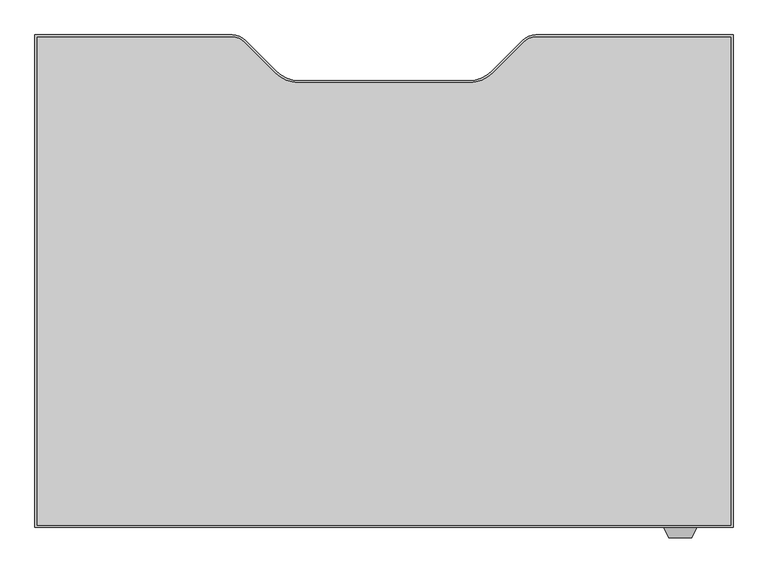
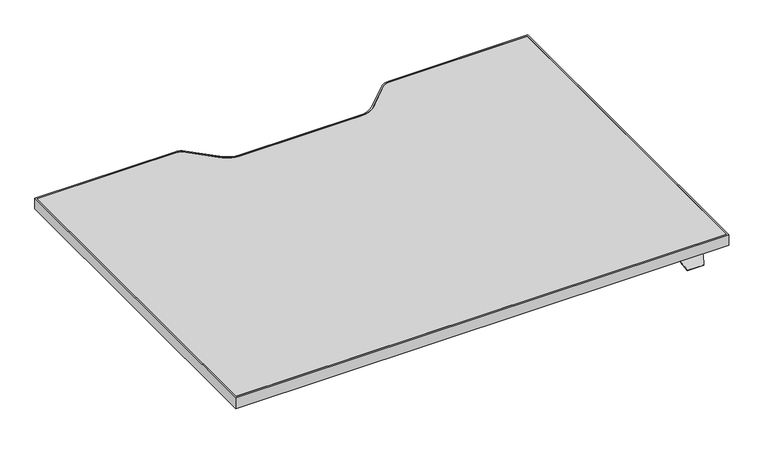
"""IFC4 building model written with IfcOpenShell, lengths in millimetres: furniture geometry, Steelcase Turnstone - Bivi - Height Adjustable Desk - C Base : 30D x 42.5W."""

import ifcopenshell
import ifcopenshell.guid

model = None  # the IFC model being written
_history = None  # IfcOwnerHistory: only IFC2X3 demands one
_inside = {}  # id of a spatial element -> (the spatial element, [elements in it])
_under = {}  # id of a project, library or spatial element -> (it, [spatial elements below it])
_declared = {}  # id of a project -> (the project, [libraries it declares])
_typed = {}  # id of a type object -> (the type object, [elements of that type])
_made_of = {}  # id of a material, layer set ... -> (it, [elements and type objects made of it])


def new_model(schema):
    """Start an empty IFC model of exactly this schema.

    Asked for "IFC4X3", IfcOpenShell would pick the latest addendum, in which some entities
    have other attributes; the version numbers below select the first issue.
    IFC2X3 requires an IfcOwnerHistory on every rooted entity: one is made here for all.
    """
    global model, _history
    if schema == "IFC4X3":
        model = ifcopenshell.file(schema_version=(4, 3, 0, 0))
    else:
        model = ifcopenshell.file(schema=schema)
    _inside.clear()
    _under.clear()
    _declared.clear()
    _typed.clear()
    _made_of.clear()
    _history = None
    if model.schema == "IFC2X3":
        org = make("IfcOrganization", Name="unknown")
        user = make(
            "IfcPersonAndOrganization",
            ThePerson=make("IfcPerson", FamilyName="unknown"),
            TheOrganization=org,
        )
        app = make(
            "IfcApplication",
            ApplicationDeveloper=org,
            Version="unknown",
            ApplicationFullName="unknown",
            ApplicationIdentifier="unknown",
        )
        _history = make(
            "IfcOwnerHistory",
            OwningUser=user,
            OwningApplication=app,
            ChangeAction="ADDED",
            CreationDate=0,
        )
    return model


def make(cls, **values):
    """One entity of the class cls with the attributes given. An attribute that is None is left unset."""
    return model.create_entity(
        cls, **{name: value for name, value in values.items() if value is not None}
    )


def rooted(cls, **values):
    """An entity with a GlobalId (a new one), such as an element, a storey or a relation."""
    return make(cls, GlobalId=ifcopenshell.guid.new(), OwnerHistory=_history, **values)


def si_unit(unit_type, name, prefix=None):
    """IfcSIUnit, for example si_unit("LENGTHUNIT", "METRE", prefix="MILLI")."""
    return make("IfcSIUnit", UnitType=unit_type, Prefix=prefix, Name=name)


def assignment(units):
    """IfcUnitAssignment: the units of a project."""
    return None if units is None else make("IfcUnitAssignment", Units=units)


def point(xyz):
    """IfcCartesianPoint."""
    return None if xyz is None else make("IfcCartesianPoint", Coordinates=xyz)


def direction(xyz):
    """IfcDirection."""
    return None if xyz is None else make("IfcDirection", DirectionRatios=xyz)


def frame(location, z_axis=None, x_axis=None):
    """IfcAxis2Placement3D, a coordinate frame: its origin and axes. An axis left out is left unset."""
    return make(
        "IfcAxis2Placement3D",
        Location=point(location),
        Axis=direction(z_axis),
        RefDirection=direction(x_axis),
    )


def frame_2d(location, x_axis=None):
    """IfcAxis2Placement2D, a coordinate frame in the plane: its origin and x axis."""
    return make(
        "IfcAxis2Placement2D", Location=point(location), RefDirection=direction(x_axis)
    )


def origin():
    """The frame at (0, 0, 0) with its axes left unset."""
    return frame((0.0, 0.0, 0.0))


def place(relative_to, where):
    """IfcLocalPlacement: puts the frame where relative to a parent placement (None: the world)."""
    return make(
        "IfcLocalPlacement", PlacementRelTo=relative_to, RelativePlacement=where
    )


def context(
    kind, dimensions, precision=None, world=None, true_north=None, identifier=None
):
    """IfcGeometricRepresentationContext, for example the 3D "Model" context."""
    return make(
        "IfcGeometricRepresentationContext",
        ContextIdentifier=identifier,
        ContextType=kind,
        CoordinateSpaceDimension=dimensions,
        Precision=precision,
        WorldCoordinateSystem=world,
        TrueNorth=true_north,
    )


def project(units=None, contexts=None):
    """IfcProject with its units and contexts."""
    return rooted(
        "IfcProject",
        Name="project",
        RepresentationContexts=contexts,
        UnitsInContext=assignment(units),
    )


def spatial(cls, under=None, at=None, **own):
    """A site, building, storey or space (cls), placed at a placement, below another one or the project."""
    s = rooted(cls, ObjectPlacement=at, **own)
    if under is not None:
        _under.setdefault(under.id(), (under, []))[1].append(s)
    return s


def polyline(points):
    """IfcPolyline through the points."""
    return make("IfcPolyline", Points=[point(p) for p in points])


def circle_curve(where, radius):
    """IfcCircle in the frame where."""
    return make("IfcCircle", Position=where, Radius=radius)


def trimmed(basis, trim1, trim2, sense, master):
    """IfcTrimmedCurve: the piece of a basis curve between two trims."""
    return make(
        "IfcTrimmedCurve",
        BasisCurve=basis,
        Trim1=trim1,
        Trim2=trim2,
        SenseAgreement=sense,
        MasterRepresentation=master,
    )


def segment(curve, same_sense, transition):
    """IfcCompositeCurveSegment."""
    return make(
        "IfcCompositeCurveSegment",
        Transition=transition,
        SameSense=same_sense,
        ParentCurve=curve,
    )


def composite_curve(segments, self_intersect=None):
    """IfcCompositeCurve: segments joined end to end."""
    return make("IfcCompositeCurve", Segments=segments, SelfIntersect=self_intersect)


def outline(outer, holes=None, kind="AREA"):
    """IfcArbitraryClosedProfileDef: a profile drawn as a closed curve; with holes, ...WithVoids."""
    if holes is None:
        return make("IfcArbitraryClosedProfileDef", ProfileType=kind, OuterCurve=outer)
    return make(
        "IfcArbitraryProfileDefWithVoids",
        ProfileType=kind,
        OuterCurve=outer,
        InnerCurves=holes,
    )


def extrude(swept, where, along, depth):
    """IfcExtrudedAreaSolid: the profile swept, set in the frame where, extruded along a direction by depth."""
    return make(
        "IfcExtrudedAreaSolid",
        SweptArea=swept,
        Position=where,
        ExtrudedDirection=direction(along),
        Depth=depth,
    )


def faces_of(points, faces, orient=None, outer=None):
    """IfcFace entities. A face is a list of loops; a loop is a list of indices into points, from 0.

    orient and outer hold one flag for each loop. By default every Orientation is true, the
    first loop of a face is its IfcFaceOuterBound and the others are IfcFaceBound.
    """
    made = []
    for i, loops in enumerate(faces):
        bounds = []
        for j, loop in enumerate(loops):
            is_outer = j == 0 if outer is None else outer[i][j]
            bounds.append(
                make(
                    "IfcFaceOuterBound" if is_outer else "IfcFaceBound",
                    Bound=make("IfcPolyLoop", Polygon=[points[k] for k in loop]),
                    Orientation=True if orient is None else orient[i][j],
                )
            )
        made.append(make("IfcFace", Bounds=bounds))
    return made


def faceted_brep(points, faces, orient=None, outer=None, voids=None):
    """IfcFacetedBrep: a solid bounded by flat faces; with voids (closed shells), ...WithVoids."""
    shared = [point(p) for p in points]
    hull = make("IfcClosedShell", CfsFaces=faces_of(shared, faces, orient, outer))
    if voids is None:
        return make("IfcFacetedBrep", Outer=hull)
    return make(
        "IfcFacetedBrepWithVoids",
        Outer=hull,
        Voids=[
            make(cls, CfsFaces=faces_of(shared, fs, o, b)) for cls, fs, o, b in voids
        ],
    )


def shape(context_of_items, identifier, shape_type, items):
    """IfcShapeRepresentation: the items that make up one representation, for example the "Body"."""
    return make(
        "IfcShapeRepresentation",
        ContextOfItems=context_of_items,
        RepresentationIdentifier=identifier,
        RepresentationType=shape_type,
        Items=items,
    )


def source(mapping_origin, context_of_items, identifier, shape_type, items):
    """IfcRepresentationMap: a shape defined once, which mapped items show again and again."""
    return make(
        "IfcRepresentationMap",
        MappingOrigin=mapping_origin,
        MappedRepresentation=shape(context_of_items, identifier, shape_type, items),
    )


def transform(
    local_origin,
    x_axis=None,
    y_axis=None,
    z_axis=None,
    scale=None,
    scale2=None,
    scale3=None,
    uniform=True,
):
    """IfcCartesianTransformationOperator3D, or its non-uniform kind. x_axis, y_axis, z_axis: its Axis1, 2, 3."""
    if uniform:
        return make(
            "IfcCartesianTransformationOperator3D",
            Axis1=direction(x_axis),
            Axis2=direction(y_axis),
            LocalOrigin=point(local_origin),
            Scale=scale,
            Axis3=direction(z_axis),
        )
    return make(
        "IfcCartesianTransformationOperator3DnonUniform",
        Axis1=direction(x_axis),
        Axis2=direction(y_axis),
        LocalOrigin=point(local_origin),
        Scale=scale,
        Axis3=direction(z_axis),
        Scale2=scale2,
        Scale3=scale3,
    )


def mapped(mapping_source, mapping_target):
    """IfcMappedItem: shows the shape of a source again, moved by a transform."""
    return make(
        "IfcMappedItem", MappingSource=mapping_source, MappingTarget=mapping_target
    )


def made_of(thing, what):
    """Note that an element or type object is made of a material, layer set ...; save() writes the relation."""
    if what is not None:
        _made_of.setdefault(what.id(), (what, []))[1].append(thing)
    return thing


def element(
    cls,
    number,
    at=None,
    inside=None,
    cuts=None,
    type_object=None,
    material=None,
    context=None,
    identifier="Body",
    shape_type=None,
    held_by="IfcProductDefinitionShape",
    body=None,
    shapes=None,
    **own,
):
    """One element of the class cls, such as IfcWall. Its Tag is "e" and its number.

    at: its placement. inside: the storey or other place that contains it. cuts: it is an
    opening in that element (IfcRelVoidsElement). A single representation is given by context,
    identifier, shape_type and body (its items); several are given by shapes. held_by: the class
    of the entity that holds the representations. save() writes the other relations.
    """
    e = rooted(cls, Tag="e%d" % number, ObjectPlacement=at, **own)
    if body is not None:
        shapes = [shape(context, identifier, shape_type, body)]
    if shapes is not None:
        e.Representation = make(held_by, Representations=shapes)
    if inside is not None:
        _inside.setdefault(inside.id(), (inside, []))[1].append(e)
    if cuts is not None:
        rooted(
            "IfcRelVoidsElement", RelatingBuildingElement=cuts, RelatedOpeningElement=e
        )
    if type_object is not None:
        _typed.setdefault(type_object.id(), (type_object, []))[1].append(e)
    return made_of(e, material)


def aggregate(whole, parts):
    """IfcRelAggregates: a whole, such as a stair, and the parts it consists of."""
    return rooted("IfcRelAggregates", RelatingObject=whole, RelatedObjects=parts)


def save(model, path):
    """Write the relations noted so far, then the file.

    IfcRelAggregates (storeys below a building ...), IfcRelContainedInSpatialStructure (elements
    in a storey), IfcRelDefinesByType, IfcRelAssociatesMaterial and IfcRelDeclares: one each for
    every whole, place, type object, material and project.
    """
    for whole, parts in _under.values():
        aggregate(whole, parts)
    for where, things in _inside.values():
        rooted(
            "IfcRelContainedInSpatialStructure",
            RelatedElements=things,
            RelatingStructure=where,
        )
    for kind, things in _typed.values():
        rooted("IfcRelDefinesByType", RelatedObjects=things, RelatingType=kind)
    for what, things in _made_of.values():
        rooted("IfcRelAssociatesMaterial", RelatedObjects=things, RelatingMaterial=what)
    for by, libraries in _declared.values():
        rooted("IfcRelDeclares", RelatingContext=by, RelatedDefinitions=libraries)
    model.write(path)


def furniture_15095b07(model_context):
    return source(origin(), model_context, "Body", "SolidModel", [
        faceted_brep([(93.7677913, -478.5301693, 760.9984131), (93.7677913, -476.0074599, 760.9984131), (93.7677913, -476.0074599, 762.4), (93.7677913, -478.5490853, 762.4), (93.7677913, -479.8594921, 761.3004382), (93.7677913, -479.8594921, 759.8829789), (44.1948135, -478.5490853, 762.4), (44.1948135, -476.0074599, 762.4), (44.1948135, -476.0074599, 760.9984131), (44.1948135, -478.5301693, 760.9984131), (44.1948135, -479.8594921, 759.8829789), (44.1948135, -479.8594921, 761.3004382), (86.7858363, -494.8323429, 748.7367246), (51.1767685, -494.8323429, 748.7367246), (50.8173686, -494.0616074, 747.9659891), (87.1452362, -494.0616074, 747.9659891)], [[[0, 1, 2, 3, 4, 5]], [[6, 7, 8, 9, 10, 11]], [[12, 13, 14, 15]], [[9, 0, 5, 15, 14, 10]], [[1, 0, 9, 8]], [[2, 1, 8, 7]], [[3, 2, 7, 6]], [[3, 6, 11, 13, 12, 4]], [[5, 4, 12, 15]], [[11, 10, 14, 13]]]),
        extrude(outline(composite_curve([segment(polyline([(-928.9785908, 283.4509147), (-623.9070191, 283.4509147)]), True, "CONTINUOUS"), segment(trimmed(circle_curve(frame_2d((-623.9070191, 254.7489147)), 28.702), [point((-623.9070191, 283.4509147))], [point((-603.6116402, 275.0442935))], False, "CARTESIAN"), True, "CONTINUOUS"), segment(polyline([(-603.6116402, 275.0442935), (-556.0972358, 227.5298891)]), True, "CONTINUOUS"), segment(trimmed(circle_curve(frame_2d((-520.1762113, 263.4509136)), 50.8), [point((-556.0972358, 227.5298891))], [point((-520.1762113, 212.6509136))], True, "CARTESIAN"), True, "CONTINUOUS"), segment(polyline([(-520.1762113, 212.6509136), (-258.2809703, 212.6509136)]), True, "CONTINUOUS"), segment(trimmed(circle_curve(frame_2d((-258.2809703, 263.4509136)), 50.8), [point((-258.2809703, 212.6509136))], [point((-222.3599458, 227.5298891))], True, "CARTESIAN"), True, "CONTINUOUS"), segment(polyline([(-222.3599458, 227.5298891), (-174.8455414, 275.0442935)]), True, "CONTINUOUS"), segment(trimmed(circle_curve(frame_2d((-154.5501625, 254.7489147)), 28.702), [point((-174.8455414, 275.0442935))], [point((-154.5501625, 283.4509147))], False, "CARTESIAN"), True, "CONTINUOUS"), segment(polyline([(-154.5501625, 283.4509147), (150.5214092, 283.4509147), (150.5214092, -478.5490853), (-928.9785908, -478.5490853), (-928.9785908, 283.4509147)]), True, "CONTINUOUS")], self_intersect=False), holes=[composite_curve([segment(polyline([(-925.5987543, 280.1489147), (-925.5987543, -475.2470853), (147.2194092, -475.2470853), (147.2194092, 280.1489147), (-154.5501625, 280.1489147)]), True, "CONTINUOUS"), segment(trimmed(circle_curve(frame_2d((-154.5501625, 254.7489147)), 25.4), [point((-154.5501625, 280.1489147))], [point((-172.5106748, 272.7094269))], True, "CARTESIAN"), True, "CONTINUOUS"), segment(polyline([(-172.5106748, 272.7094269), (-220.527602, 224.6924998)]), True, "CONTINUOUS"), segment(trimmed(circle_curve(frame_2d((-256.4486265, 260.6135242)), 50.8), [point((-220.527602, 224.6924998))], [point((-256.4486265, 209.8135242))], False, "CARTESIAN"), True, "CONTINUOUS"), segment(polyline([(-256.4486265, 209.8135242), (-389.2285908, 209.8135242), (-522.0085552, 209.8135242)]), True, "CONTINUOUS"), segment(trimmed(circle_curve(frame_2d((-522.0085552, 260.6135242)), 50.8), [point((-522.0085552, 209.8135242))], [point((-557.9295796, 224.6924998))], False, "CARTESIAN"), True, "CONTINUOUS"), segment(polyline([(-557.9295796, 224.6924998), (-605.9465068, 272.7094269)]), True, "CONTINUOUS"), segment(trimmed(circle_curve(frame_2d((-623.9070191, 254.7489147)), 25.4), [point((-605.9465068, 272.7094269))], [point((-623.9070191, 280.1489147))], True, "CARTESIAN"), True, "CONTINUOUS"), segment(polyline([(-623.9070191, 280.1489147), (-925.5987543, 280.1489147)]), True, "CONTINUOUS")], self_intersect=False)]), frame((0.0, 0.0, 762.4), z_axis=(0.0, 0.0, 1.0), x_axis=(1.0, 0.0, 0.0)), (0.0, 0.0, 1.0), 25.0),
        extrude(outline(composite_curve([segment(polyline([(-925.5987543, 280.1489147), (-623.9070191, 280.1489147)]), True, "CONTINUOUS"), segment(trimmed(circle_curve(frame_2d((-623.9070191, 254.7489147)), 25.4), [point((-623.9070191, 280.1489147))], [point((-605.9465068, 272.7094269))], False, "CARTESIAN"), True, "CONTINUOUS"), segment(polyline([(-605.9465068, 272.7094269), (-557.9295796, 224.6924998)]), True, "CONTINUOUS"), segment(trimmed(circle_curve(frame_2d((-522.0085552, 260.6135242)), 50.8), [point((-557.9295796, 224.6924998))], [point((-522.0085552, 209.8135242))], True, "CARTESIAN"), True, "CONTINUOUS"), segment(polyline([(-522.0085552, 209.8135242), (-389.2285908, 209.8135242), (-256.4486265, 209.8135242)]), True, "CONTINUOUS"), segment(trimmed(circle_curve(frame_2d((-256.4486265, 260.6135242)), 50.8), [point((-256.4486265, 209.8135242))], [point((-220.527602, 224.6924998))], True, "CARTESIAN"), True, "CONTINUOUS"), segment(polyline([(-220.527602, 224.6924998), (-172.5106748, 272.7094269)]), True, "CONTINUOUS"), segment(trimmed(circle_curve(frame_2d((-154.5501625, 254.7489147)), 25.4), [point((-172.5106748, 272.7094269))], [point((-154.5501625, 280.1489147))], False, "CARTESIAN"), True, "CONTINUOUS"), segment(polyline([(-154.5501625, 280.1489147), (147.2194092, 280.1489147), (147.2194092, -475.2470853), (-925.5987543, -475.2470853), (-925.5987543, 280.1489147)]), True, "CONTINUOUS")], self_intersect=False)), frame((0.0, 0.0, 762.4), z_axis=(0.0, 0.0, 1.0), x_axis=(1.0, 0.0, 0.0)), (0.0, 0.0, 1.0), 25.0),
    ])


if __name__ == "__main__":
    model = new_model("IFC4")
    model_context = context("Model", 3, world=origin())
    ifc_project = project(units=[si_unit("LENGTHUNIT", "METRE", prefix="MILLI")], contexts=[model_context])
    site = spatial("IfcSite", under=ifc_project)
    building = spatial("IfcBuilding", under=site)
    placement = place(None, origin())
    furniture_shape = furniture_15095b07(model_context)
    element("IfcFurniture", 1, ObjectType="Steelcase Turnstone - Bivi - Height Adjustable Desk - C Base : 30D x 42.5W", at=placement, inside=building, context=model_context, shape_type="MappedRepresentation", body=[
        mapped(furniture_shape, transform((0.0, 0.0, 0.0), x_axis=(1.0, 0.0, 0.0), y_axis=(0.0, 1.0, 0.0), z_axis=(0.0, 0.0, 1.0))),
    ])
    save(model, "model.ifc")
